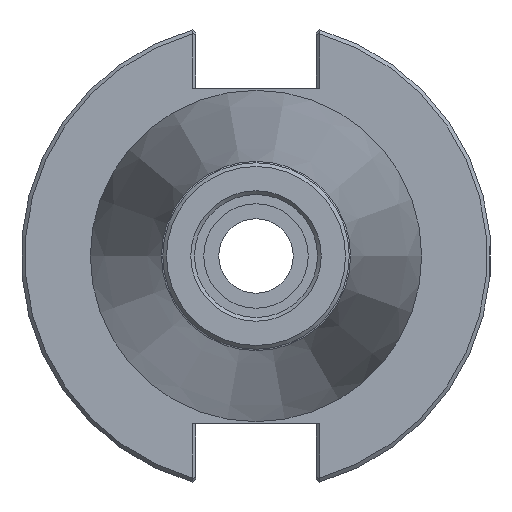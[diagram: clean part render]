
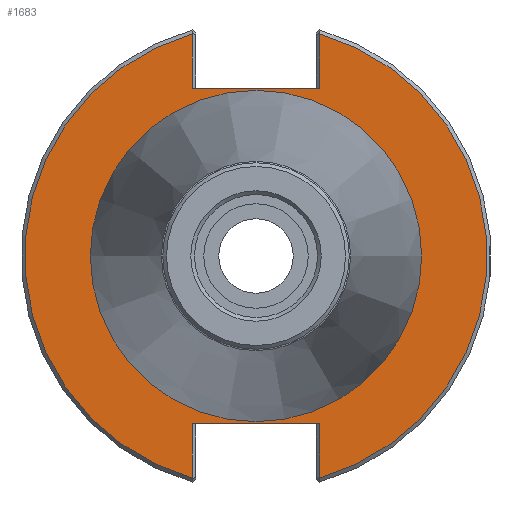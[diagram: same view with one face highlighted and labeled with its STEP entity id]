
A CAD part, left-side view. The second image highlights one B-rep face of the part: STEP entity #1683.
In plain terms, the highlighted planar face has unit normal (-1, 0, 0).
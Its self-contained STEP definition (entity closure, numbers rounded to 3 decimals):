
#34=FACE_BOUND('',#309,.T.);
#204=FACE_OUTER_BOUND('',#308,.T.);
#308=EDGE_LOOP('',(#1218,#1219,#1220,#1221,#1222,#1223,#1224,#1225));
#309=EDGE_LOOP('',(#1226));
#413=LINE('',#2598,#509);
#431=LINE('',#2901,#527);
#434=LINE('',#2914,#530);
#435=LINE('',#2916,#531);
#436=LINE('',#2918,#532);
#437=LINE('',#2920,#533);
#509=VECTOR('',#2096,10.);
#527=VECTOR('',#2140,10.);
#530=VECTOR('',#2147,10.);
#531=VECTOR('',#2148,10.);
#532=VECTOR('',#2149,10.);
#533=VECTOR('',#2152,10.);
#601=CIRCLE('',#1865,31.);
#605=CIRCLE('',#1876,31.);
#606=CIRCLE('',#1877,21.7);
#698=VERTEX_POINT('',#2596);
#699=VERTEX_POINT('',#2597);
#716=VERTEX_POINT('',#2738);
#738=VERTEX_POINT('',#2898);
#739=VERTEX_POINT('',#2900);
#741=VERTEX_POINT('',#2913);
#742=VERTEX_POINT('',#2915);
#743=VERTEX_POINT('',#2917);
#744=VERTEX_POINT('',#2921);
#873=EDGE_CURVE('',#698,#699,#413,.T.);
#896=EDGE_CURVE('',#716,#698,#601,.T.);
#924=EDGE_CURVE('',#738,#739,#431,.T.);
#929=EDGE_CURVE('',#741,#716,#434,.T.);
#930=EDGE_CURVE('',#741,#742,#435,.T.);
#931=EDGE_CURVE('',#743,#742,#436,.T.);
#932=EDGE_CURVE('',#739,#743,#605,.T.);
#933=EDGE_CURVE('',#738,#699,#437,.T.);
#934=EDGE_CURVE('',#744,#744,#606,.T.);
#1218=ORIENTED_EDGE('',*,*,#873,.F.);
#1219=ORIENTED_EDGE('',*,*,#896,.F.);
#1220=ORIENTED_EDGE('',*,*,#929,.F.);
#1221=ORIENTED_EDGE('',*,*,#930,.T.);
#1222=ORIENTED_EDGE('',*,*,#931,.F.);
#1223=ORIENTED_EDGE('',*,*,#932,.F.);
#1224=ORIENTED_EDGE('',*,*,#924,.F.);
#1225=ORIENTED_EDGE('',*,*,#933,.T.);
#1226=ORIENTED_EDGE('',*,*,#934,.T.);
#1622=PLANE('',#1875);
#1683=ADVANCED_FACE('',(#204,#34),#1622,.T.);
#1865=AXIS2_PLACEMENT_3D('',#2742,#2112,#2113);
#1875=AXIS2_PLACEMENT_3D('',#2912,#2145,#2146);
#1876=AXIS2_PLACEMENT_3D('',#2919,#2150,#2151);
#1877=AXIS2_PLACEMENT_3D('',#2922,#2153,#2154);
#2096=DIRECTION('',(0.,0.,1.));
#2112=DIRECTION('center_axis',(1.,0.,0.));
#2113=DIRECTION('ref_axis',(0.,-1.,0.));
#2140=DIRECTION('',(0.,0.,-1.));
#2145=DIRECTION('center_axis',(-1.,0.,0.));
#2146=DIRECTION('ref_axis',(0.,0.,1.));
#2147=DIRECTION('',(0.,0.,1.));
#2148=DIRECTION('',(0.,1.,0.));
#2149=DIRECTION('',(0.,0.,-1.));
#2150=DIRECTION('center_axis',(1.,0.,0.));
#2151=DIRECTION('ref_axis',(0.,-1.,0.));
#2152=DIRECTION('',(0.,-1.,0.));
#2153=DIRECTION('center_axis',(1.,0.,0.));
#2154=DIRECTION('ref_axis',(0.,0.,-1.));
#2596=CARTESIAN_POINT('',(95.,-8.55,-29.798));
#2597=CARTESIAN_POINT('',(95.,-8.55,-22.5));
#2598=CARTESIAN_POINT('',(95.,-8.55,-15.75));
#2738=CARTESIAN_POINT('',(95.,-8.55,29.798));
#2742=CARTESIAN_POINT('Origin',(95.,0.,0.));
#2898=CARTESIAN_POINT('',(95.,8.55,-22.5));
#2900=CARTESIAN_POINT('',(95.,8.55,-29.798));
#2901=CARTESIAN_POINT('',(95.,8.55,-15.75));
#2912=CARTESIAN_POINT('Origin',(95.,31.5,0.));
#2913=CARTESIAN_POINT('',(95.,-8.55,22.5));
#2914=CARTESIAN_POINT('',(95.,-8.55,15.75));
#2915=CARTESIAN_POINT('',(95.,8.55,22.5));
#2916=CARTESIAN_POINT('',(95.,15.75,22.5));
#2917=CARTESIAN_POINT('',(95.,8.55,29.798));
#2918=CARTESIAN_POINT('',(95.,8.55,15.75));
#2919=CARTESIAN_POINT('Origin',(95.,0.,0.));
#2920=CARTESIAN_POINT('',(95.,15.75,-22.5));
#2921=CARTESIAN_POINT('',(95.,-21.7,0.));
#2922=CARTESIAN_POINT('Origin',(95.,0.,0.));
